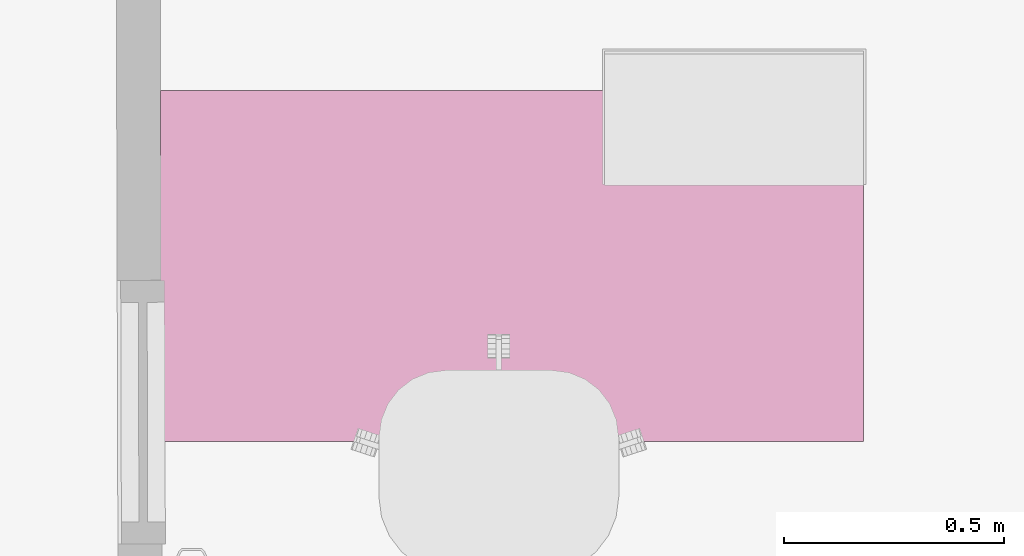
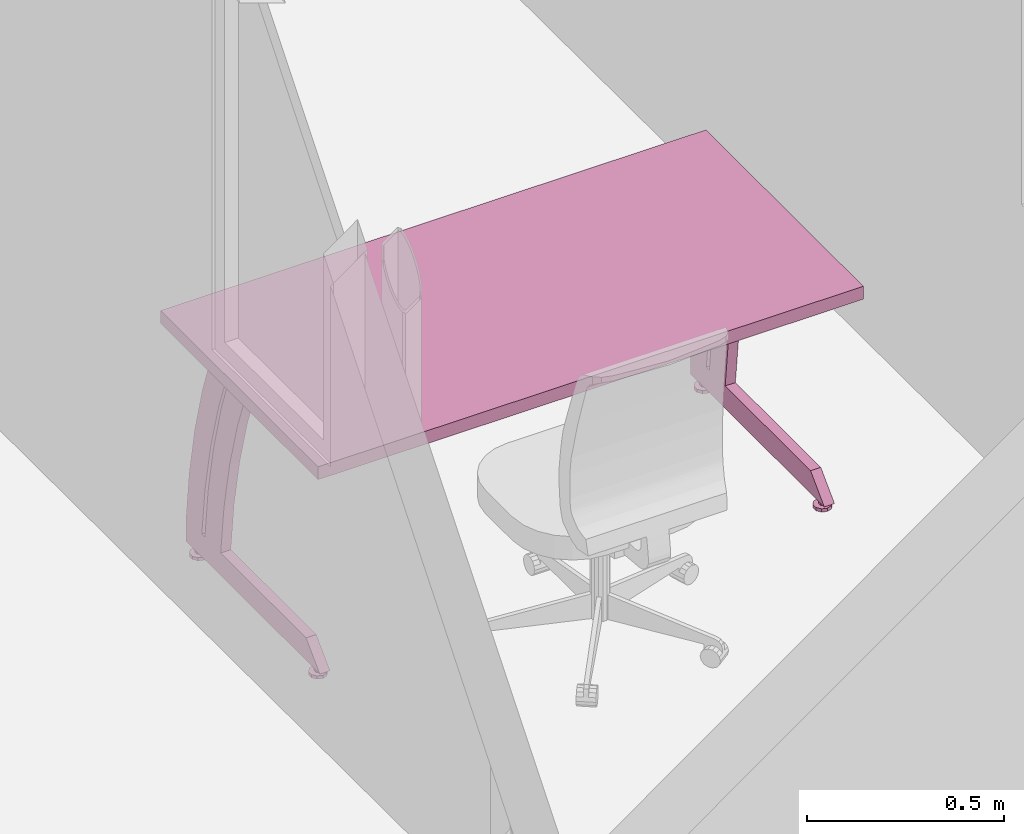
# One storey, part 86 of 128: 1 furnishing.
"""IFC2X3 building model written with IfcOpenShell, lengths in metres."""

from ifc_helpers import new_model, entity, si_unit, converted_unit, derived_unit, direction, frame, origin, place, context, subcontext, project, spatial, faceted_brep, source, transform, mapped, material, type_object, type_shapes, element, save


model = new_model("IFC2X3")

# Units and contexts
model_context = context("Model", 3, precision=1e-05, world=origin(), true_north=direction((6.123031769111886e-17, 1.0)))
body_context = subcontext(model_context, "Body", "Model", "MODEL_VIEW")
ifc_project = project(units=[si_unit("LENGTHUNIT", "METRE"), si_unit("AREAUNIT", "SQUARE_METRE"), converted_unit("PLANEANGLEUNIT", "DEGREE", entity("IfcPlaneAngleMeasure", 0.017453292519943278), si_unit("PLANEANGLEUNIT", "RADIAN"), dimensions=[0, 0, 0, 0, 0, 0, 0]), derived_unit("THERMALTRANSMITTANCEUNIT", [(si_unit("MASSUNIT", "GRAM", prefix="KILO"), 1), (si_unit("THERMODYNAMICTEMPERATUREUNIT", "KELVIN"), -1), (si_unit("TIMEUNIT", "SECOND"), -3)])], contexts=[model_context])

# Site, building, storey
site_placement = place(None, origin())
site = spatial("IfcSite", under=ifc_project, at=site_placement, Name="Default", CompositionType="ELEMENT")
building_placement = place(site_placement, origin())
building = spatial("IfcBuilding", under=site, at=building_placement, CompositionType="ELEMENT")
storey_placement = place(building_placement, origin())
storey = spatial("IfcBuildingStorey", under=building, at=storey_placement, Name="00_RDC CAF", CompositionType="ELEMENT", Elevation=2.4982504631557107e-13)

# Furnishing
ifc_material = material(Name="ARC - Mo - Blanc")
furniture_type = type_object("IfcFurnitureType", Name="Mo_Bureau:Mo_Bureau_1600x800mm", AssemblyPlace="NOTDEFINED", material=ifc_material)
shared_shape = source(origin(), body_context, "Body", "Brep", [
    faceted_brep([(0.05999999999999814, -0.6962325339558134, 0.0), (0.03622358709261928, -0.6885071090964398, 0.0), (0.04076447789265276, -0.6822571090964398, 0.0), (0.04530536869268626, -0.6760071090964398, 0.0), (0.05265268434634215, -0.6736198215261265, 0.0), (0.059999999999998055, -0.6712325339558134, 0.0), (0.06734731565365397, -0.6736198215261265, 0.0), (0.03622358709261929, -0.6962325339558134, 0.0), (0.03622358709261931, -0.7039579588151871, 0.0), (0.04076447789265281, -0.7102079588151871, 0.0), (0.045305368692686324, -0.7164579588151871, 0.0), (0.05265268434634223, -0.7188452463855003, 0.0), (0.05999999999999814, -0.7212325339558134, 0.0), (0.07469463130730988, -0.6760071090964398, 0.0), (0.07923552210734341, -0.6822571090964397, 0.0), (0.08377641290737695, -0.6885071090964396, 0.0), (0.08377641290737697, -0.6962325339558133, 0.0), (0.0673473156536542, -0.7188452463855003, 0.0), (0.07469463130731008, -0.716457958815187, 0.0), (0.07923552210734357, -0.7102079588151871, 0.0), (0.08377641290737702, -0.703957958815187, 0.0), (0.05999999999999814, -0.6962325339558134, 0.024999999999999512), (0.0599999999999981, -0.6862325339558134, 0.024999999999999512), (0.05133974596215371, -0.6912325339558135, 0.024999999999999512), (0.05133974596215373, -0.7012325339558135, 0.024999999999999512), (0.05999999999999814, -0.7062325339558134, 0.024999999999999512), (0.06866025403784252, -0.6912325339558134, 0.024999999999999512), (0.06866025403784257, -0.7012325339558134, 0.024999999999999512), (0.05133974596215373, -0.7012325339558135, 0.010000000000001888), (0.05999999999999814, -0.7062325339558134, 0.010000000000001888), (0.05133974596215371, -0.6912325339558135, 0.010000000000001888), (0.05999999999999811, -0.6862325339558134, 0.010000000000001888), (0.06866025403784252, -0.6912325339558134, 0.010000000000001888), (0.06866025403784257, -0.7012325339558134, 0.010000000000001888), (0.05999999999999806, -0.6712325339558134, 0.010000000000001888), (0.0555460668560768, -0.6726797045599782, 0.010000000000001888), (0.051092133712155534, -0.6741268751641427, 0.010000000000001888), (0.04530536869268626, -0.6760071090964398, 0.010000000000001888), (0.06734731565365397, -0.6736198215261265, 0.010000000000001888), (0.07469463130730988, -0.6760071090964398, 0.010000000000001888), (0.07923552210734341, -0.6822571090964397, 0.010000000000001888), (0.08377641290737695, -0.6885071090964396, 0.010000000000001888), (0.08377641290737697, -0.6962325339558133, 0.010000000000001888), (0.08377641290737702, -0.703957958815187, 0.010000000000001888), (0.07923552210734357, -0.7102079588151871, 0.010000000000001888), (0.07469463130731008, -0.716457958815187, 0.010000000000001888), (0.06890786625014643, -0.7183381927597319, 0.010000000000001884), (0.06445393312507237, -0.7197853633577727, 0.010000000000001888), (0.05999999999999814, -0.7212325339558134, 0.010000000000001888), (0.05265268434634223, -0.7188452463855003, 0.010000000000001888), (0.045305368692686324, -0.7164579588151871, 0.010000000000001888), (0.03622358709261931, -0.7039579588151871, 0.010000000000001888), (0.04076447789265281, -0.7102079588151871, 0.010000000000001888), (0.04076447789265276, -0.6822571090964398, 0.010000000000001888), (0.03622358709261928, -0.6885071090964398, 0.010000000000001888), (0.03622358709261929, -0.6962325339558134, 0.010000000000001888)], [[[0, 1, 2]], [[0, 2, 3]], [[0, 3, 4]], [[0, 4, 5]], [[0, 5, 6]], [[0, 7, 1]], [[0, 8, 7]], [[0, 9, 8]], [[0, 10, 9]], [[0, 11, 10]], [[0, 12, 11]], [[0, 6, 13]], [[0, 13, 14]], [[0, 14, 15]], [[0, 15, 16]], [[0, 17, 12]], [[0, 18, 17]], [[0, 19, 18]], [[0, 20, 19]], [[0, 16, 20]], [[21, 22, 23]], [[23, 24, 21]], [[24, 25, 21]], [[21, 26, 22]], [[25, 27, 21]], [[26, 21, 27]], [[25, 24, 28, 29]], [[24, 23, 30, 28]], [[23, 22, 31, 30]], [[22, 26, 32, 31]], [[26, 27, 33, 32]], [[27, 25, 29, 33]], [[31, 34, 35]], [[31, 35, 36]], [[31, 36, 37]], [[31, 37, 30]], [[31, 38, 34]], [[31, 39, 38]], [[32, 39, 31]], [[32, 40, 39]], [[32, 41, 40]], [[32, 42, 41]], [[32, 43, 42]], [[32, 33, 43]], [[33, 44, 43]], [[33, 45, 44]], [[33, 29, 45]], [[29, 46, 45]], [[29, 47, 46]], [[29, 48, 47]], [[29, 49, 48]], [[29, 50, 49]], [[29, 28, 50]], [[30, 51, 28]], [[28, 51, 52]], [[28, 52, 50]], [[30, 37, 53]], [[30, 53, 54]], [[30, 54, 55]], [[30, 55, 51]], [[11, 12, 48, 49, 50, 10]], [[8, 9, 10, 50, 52, 51]], [[7, 8, 51, 55, 54, 1]], [[3, 37, 36, 35, 34, 5, 4]], [[54, 53, 37, 3, 2, 1]], [[6, 5, 34, 38, 39, 13]], [[15, 14, 13, 39, 40, 41]], [[16, 15, 41, 42, 43, 20]], [[18, 45, 46, 47, 48, 12, 17]], [[43, 44, 45, 18, 19, 20]]]),
    faceted_brep([(0.05999999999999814, -0.09132706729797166, 0.0), (0.03622358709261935, -0.08360164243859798, 0.0), (0.04076447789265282, -0.07735164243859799, 0.0), (0.0453053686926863, -0.07110164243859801, 0.0), (0.05265268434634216, -0.06871435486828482, 0.0), (0.059999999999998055, -0.06632706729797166, 0.0), (0.06734731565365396, -0.06871435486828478, 0.0), (0.03622358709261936, -0.09132706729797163, 0.0), (0.03622358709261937, -0.09905249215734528, 0.0), (0.04076447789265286, -0.10530249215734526, 0.0), (0.04530536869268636, -0.11155249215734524, 0.0), (0.05265268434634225, -0.11393977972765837, 0.0), (0.05999999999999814, -0.11632706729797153, 0.0), (0.07469463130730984, -0.0711016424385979, 0.0), (0.07923552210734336, -0.07735164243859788, 0.0), (0.08377641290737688, -0.08360164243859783, 0.0), (0.0837764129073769, -0.09132706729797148, 0.0), (0.06734731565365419, -0.11393977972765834, 0.0), (0.07469463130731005, -0.11155249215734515, 0.0), (0.07923552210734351, -0.10530249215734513, 0.0), (0.08377641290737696, -0.09905249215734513, 0.0), (0.05999999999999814, -0.09132706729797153, 0.024999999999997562), (0.0599999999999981, -0.08132706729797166, 0.024999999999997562), (0.05133974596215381, -0.08632706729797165, 0.024999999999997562), (0.05133974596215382, -0.09632706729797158, 0.024999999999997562), (0.05999999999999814, -0.10132706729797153, 0.024999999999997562), (0.06866025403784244, -0.0863270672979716, 0.024999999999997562), (0.06866025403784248, -0.09632706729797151, 0.024999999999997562), (0.05133974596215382, -0.09632706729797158, 0.009999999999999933), (0.05999999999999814, -0.10132706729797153, 0.009999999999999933), (0.05133974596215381, -0.08632706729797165, 0.009999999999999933), (0.05999999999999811, -0.08132706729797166, 0.009999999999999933), (0.06866025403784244, -0.0863270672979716, 0.009999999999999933), (0.06866025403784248, -0.09632706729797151, 0.009999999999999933), (0.05999999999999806, -0.06632706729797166, 0.009999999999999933), (0.055546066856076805, -0.06777423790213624, 0.00999999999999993), (0.051092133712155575, -0.06922140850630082, 0.00999999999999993), (0.0453053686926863, -0.07110164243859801, 0.009999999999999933), (0.06734731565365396, -0.06871435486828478, 0.00999999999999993), (0.07469463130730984, -0.0711016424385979, 0.009999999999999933), (0.07923552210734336, -0.07735164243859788, 0.00999999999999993), (0.08377641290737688, -0.08360164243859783, 0.009999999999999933), (0.0837764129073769, -0.09132706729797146, 0.00999999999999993), (0.08377641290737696, -0.09905249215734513, 0.009999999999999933), (0.07923552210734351, -0.10530249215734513, 0.00999999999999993), (0.07469463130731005, -0.11155249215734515, 0.009999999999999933), (0.0689078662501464, -0.11343272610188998, 0.00999999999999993), (0.06445393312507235, -0.11487989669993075, 0.00999999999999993), (0.05999999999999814, -0.11632706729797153, 0.009999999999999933), (0.05265268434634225, -0.11393977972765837, 0.00999999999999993), (0.04530536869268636, -0.11155249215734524, 0.009999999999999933), (0.03622358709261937, -0.09905249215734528, 0.009999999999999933), (0.04076447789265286, -0.10530249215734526, 0.00999999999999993), (0.04076447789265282, -0.07735164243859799, 0.00999999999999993), (0.03622358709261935, -0.08360164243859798, 0.009999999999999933), (0.03622358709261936, -0.09132706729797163, 0.00999999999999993)], [[[0, 1, 2]], [[0, 2, 3]], [[0, 3, 4]], [[0, 4, 5]], [[0, 5, 6]], [[0, 7, 1]], [[0, 8, 7]], [[0, 9, 8]], [[0, 10, 9]], [[0, 11, 10]], [[0, 12, 11]], [[0, 6, 13]], [[0, 13, 14]], [[0, 14, 15]], [[0, 15, 16]], [[0, 17, 12]], [[0, 18, 17]], [[0, 19, 18]], [[0, 20, 19]], [[0, 16, 20]], [[21, 22, 23]], [[23, 24, 21]], [[24, 25, 21]], [[21, 26, 22]], [[25, 27, 21]], [[26, 21, 27]], [[25, 24, 28, 29]], [[24, 23, 30, 28]], [[23, 22, 31, 30]], [[22, 26, 32, 31]], [[26, 27, 33, 32]], [[27, 25, 29, 33]], [[31, 34, 35]], [[31, 35, 36]], [[31, 36, 37]], [[31, 37, 30]], [[31, 38, 34]], [[31, 39, 38]], [[32, 39, 31]], [[32, 40, 39]], [[32, 41, 40]], [[32, 42, 41]], [[32, 43, 42]], [[32, 33, 43]], [[33, 44, 43]], [[33, 45, 44]], [[33, 29, 45]], [[29, 46, 45]], [[29, 47, 46]], [[29, 48, 47]], [[29, 49, 48]], [[29, 50, 49]], [[29, 28, 50]], [[30, 51, 28]], [[28, 51, 52]], [[28, 52, 50]], [[30, 37, 53]], [[30, 53, 54]], [[30, 54, 55]], [[30, 55, 51]], [[11, 12, 48, 49, 50, 10]], [[8, 9, 10, 50, 52, 51]], [[7, 8, 51, 55, 54, 1]], [[3, 37, 36, 35, 34, 5, 4]], [[54, 53, 37, 3, 2, 1]], [[6, 5, 34, 38, 39, 13]], [[15, 14, 13, 39, 40, 41]], [[16, 15, 41, 42, 43, 20]], [[18, 45, 46, 47, 48, 12, 17]], [[43, 44, 45, 18, 19, 20]]]),
    faceted_brep([(0.04499999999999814, -0.22742160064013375, 0.09500000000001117), (0.04499999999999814, -0.24409269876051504, 0.24614112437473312), (0.04499999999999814, -0.2727144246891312, 0.3954808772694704), (0.04499999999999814, -0.313105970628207, 0.542075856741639), (0.04499999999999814, -0.36501217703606, 0.684999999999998), (0.04499999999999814, -0.27887211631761, 0.6849999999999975), (0.04499999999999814, -0.22919246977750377, 0.5416912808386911), (0.04499999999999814, -0.19055436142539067, 0.39501969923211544), (0.04499999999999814, -0.1631815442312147, 0.24583462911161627), (0.04499999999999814, -0.14723253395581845, 0.09500000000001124), (0.07499999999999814, -0.3650121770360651, 0.6850000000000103), (0.07499999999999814, -0.313105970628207, 0.542075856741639), (0.07499999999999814, -0.2727144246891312, 0.3954808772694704), (0.07499999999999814, -0.24409269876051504, 0.24614112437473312), (0.07499999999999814, -0.22742160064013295, 0.09499999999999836), (0.07499999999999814, -0.14723253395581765, 0.09499999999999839), (0.07499999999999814, -0.1631815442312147, 0.24583462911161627), (0.07499999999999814, -0.19055436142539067, 0.39501969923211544), (0.07499999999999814, -0.22919246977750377, 0.5416912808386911), (0.07499999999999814, -0.2788721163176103, 0.684999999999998)], [[[0, 1, 2, 3, 4, 5, 6, 7, 8, 9]], [[10, 11, 12, 13, 14, 15, 16, 17, 18, 19]], [[10, 19, 5, 4]], [[3, 11, 10, 4]], [[2, 12, 11, 3]], [[0, 14, 13, 1]], [[12, 2, 1, 13]], [[15, 14, 0, 9]], [[8, 7, 17, 16]], [[15, 9, 8, 16]], [[6, 5, 19, 18]], [[6, 18, 17, 7]]]),
    faceted_brep([(0.04499999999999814, -0.1314216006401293, 0.09500000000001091), (0.04499999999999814, -0.1480926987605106, 0.24614112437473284), (0.04499999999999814, -0.17671442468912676, 0.3954808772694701), (0.04499999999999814, -0.21710597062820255, 0.5420758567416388), (0.04499999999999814, -0.2690121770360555, 0.6849999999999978), (0.04499999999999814, -0.18287211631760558, 0.6849999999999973), (0.04499999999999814, -0.13319246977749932, 0.5416912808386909), (0.04499999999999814, -0.09455436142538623, 0.39501969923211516), (0.04499999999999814, -0.06718154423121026, 0.24583462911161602), (0.04499999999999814, -0.05123253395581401, 0.09500000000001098), (0.07499999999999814, -0.2690121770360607, 0.6850000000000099), (0.07499999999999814, -0.21710597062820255, 0.5420758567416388), (0.07499999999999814, -0.17671442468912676, 0.3954808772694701), (0.07499999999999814, -0.1480926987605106, 0.24614112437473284), (0.07499999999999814, -0.1314216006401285, 0.09499999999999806), (0.07499999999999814, -0.051232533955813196, 0.09499999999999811), (0.07499999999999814, -0.06718154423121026, 0.24583462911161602), (0.07499999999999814, -0.09455436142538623, 0.39501969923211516), (0.07499999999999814, -0.13319246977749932, 0.5416912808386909), (0.07499999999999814, -0.18287211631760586, 0.6849999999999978)], [[[0, 1, 2, 3, 4, 5, 6, 7, 8, 9]], [[10, 11, 12, 13, 14, 15, 16, 17, 18, 19]], [[10, 19, 5, 4]], [[3, 11, 10, 4]], [[2, 12, 11, 3]], [[0, 14, 13, 1]], [[12, 2, 1, 13]], [[15, 14, 0, 9]], [[8, 7, 17, 16]], [[15, 9, 8, 16]], [[6, 5, 19, 18]], [[6, 18, 17, 7]]]),
    faceted_brep([(0.04499999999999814, -0.05123253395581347, 0.024999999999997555), (0.04499999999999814, -0.7312325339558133, 0.024999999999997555), (0.04499999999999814, -0.6612325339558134, 0.09499999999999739), (0.04499999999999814, -0.05123253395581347, 0.09499999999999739), (0.07499999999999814, -0.05123253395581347, 0.024999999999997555), (0.07499999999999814, -0.05123253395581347, 0.09499999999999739), (0.07499999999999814, -0.6612325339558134, 0.09499999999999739), (0.07499999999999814, -0.7312325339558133, 0.024999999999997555)], [[[0, 1, 2, 3]], [[4, 5, 6, 7]], [[5, 4, 0, 3]], [[6, 5, 3, 2]], [[4, 7, 1, 0]], [[7, 6, 2, 1]]]),
    faceted_brep([(1.5399999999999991, -0.6962325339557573, 0.0), (1.5162235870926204, -0.6885071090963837, 0.0), (1.5207644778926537, -0.6822571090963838, 0.0), (1.5253053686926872, -0.6760071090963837, 0.0), (1.532652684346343, -0.6736198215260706, 0.0), (1.5399999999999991, -0.6712325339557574, 0.0), (1.547347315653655, -0.6736198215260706, 0.0), (1.5162235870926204, -0.6962325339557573, 0.0), (1.5162235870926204, -0.7039579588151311, 0.0), (1.5207644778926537, -0.710207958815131, 0.0), (1.5253053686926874, -0.7164579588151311, 0.0), (1.5326526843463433, -0.7188452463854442, 0.0), (1.5399999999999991, -0.7212325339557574, 0.0), (1.554694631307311, -0.6760071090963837, 0.0), (1.5592355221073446, -0.6822571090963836, 0.0), (1.563776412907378, -0.6885071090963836, 0.0), (1.563776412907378, -0.6962325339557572, 0.0), (1.5473473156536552, -0.7188452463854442, 0.0), (1.5546946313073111, -0.716457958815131, 0.0), (1.5592355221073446, -0.710207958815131, 0.0), (1.563776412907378, -0.7039579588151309, 0.0), (1.5399999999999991, -0.6962325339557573, 0.024999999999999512), (1.5399999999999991, -0.6862325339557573, 0.024999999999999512), (1.5313397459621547, -0.6912325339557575, 0.024999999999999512), (1.5313397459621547, -0.7012325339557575, 0.024999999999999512), (1.5399999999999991, -0.7062325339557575, 0.024999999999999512), (1.5486602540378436, -0.6912325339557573, 0.024999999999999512), (1.5486602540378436, -0.7012325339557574, 0.024999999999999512), (1.5313397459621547, -0.7012325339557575, 0.010000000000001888), (1.5399999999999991, -0.7062325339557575, 0.010000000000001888), (1.5313397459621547, -0.6912325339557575, 0.010000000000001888), (1.5399999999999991, -0.6862325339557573, 0.010000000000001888), (1.5486602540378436, -0.6912325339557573, 0.010000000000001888), (1.5486602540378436, -0.7012325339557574, 0.010000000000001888), (1.5399999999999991, -0.6712325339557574, 0.010000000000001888), (1.5355460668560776, -0.672679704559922, 0.010000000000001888), (1.5310921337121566, -0.6741268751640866, 0.010000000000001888), (1.5253053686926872, -0.6760071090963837, 0.010000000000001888), (1.547347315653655, -0.6736198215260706, 0.010000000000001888), (1.554694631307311, -0.6760071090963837, 0.010000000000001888), (1.5592355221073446, -0.6822571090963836, 0.010000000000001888), (1.563776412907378, -0.6885071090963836, 0.010000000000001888), (1.563776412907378, -0.6962325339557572, 0.010000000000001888), (1.563776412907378, -0.7039579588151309, 0.010000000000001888), (1.5592355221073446, -0.710207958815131, 0.010000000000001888), (1.5546946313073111, -0.716457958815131, 0.010000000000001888), (1.5489078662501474, -0.7183381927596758, 0.010000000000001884), (1.5444539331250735, -0.7197853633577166, 0.010000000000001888), (1.5399999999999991, -0.7212325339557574, 0.010000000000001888), (1.5326526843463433, -0.7188452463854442, 0.010000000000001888), (1.5253053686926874, -0.7164579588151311, 0.010000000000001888), (1.5162235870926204, -0.7039579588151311, 0.010000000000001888), (1.5207644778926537, -0.710207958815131, 0.010000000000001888), (1.5207644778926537, -0.6822571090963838, 0.010000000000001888), (1.5162235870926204, -0.6885071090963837, 0.010000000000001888), (1.5162235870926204, -0.6962325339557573, 0.010000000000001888)], [[[0, 1, 2]], [[0, 2, 3]], [[0, 3, 4]], [[0, 4, 5]], [[0, 5, 6]], [[0, 7, 1]], [[0, 8, 7]], [[0, 9, 8]], [[0, 10, 9]], [[0, 11, 10]], [[0, 12, 11]], [[0, 6, 13]], [[0, 13, 14]], [[0, 14, 15]], [[0, 15, 16]], [[0, 17, 12]], [[0, 18, 17]], [[0, 19, 18]], [[0, 20, 19]], [[0, 16, 20]], [[21, 22, 23]], [[23, 24, 21]], [[24, 25, 21]], [[21, 26, 22]], [[25, 27, 21]], [[26, 21, 27]], [[25, 24, 28, 29]], [[24, 23, 30, 28]], [[23, 22, 31, 30]], [[22, 26, 32, 31]], [[26, 27, 33, 32]], [[27, 25, 29, 33]], [[31, 34, 35]], [[31, 35, 36]], [[31, 36, 37]], [[31, 37, 30]], [[31, 38, 34]], [[31, 39, 38]], [[32, 39, 31]], [[32, 40, 39]], [[32, 41, 40]], [[32, 42, 41]], [[32, 43, 42]], [[32, 33, 43]], [[33, 44, 43]], [[33, 45, 44]], [[33, 29, 45]], [[29, 46, 45]], [[29, 47, 46]], [[29, 48, 47]], [[29, 49, 48]], [[29, 50, 49]], [[29, 28, 50]], [[30, 51, 28]], [[28, 51, 52]], [[28, 52, 50]], [[30, 37, 53]], [[30, 53, 54]], [[30, 54, 55]], [[30, 55, 51]], [[11, 12, 48, 49, 50, 10]], [[8, 9, 10, 50, 52, 51]], [[7, 8, 51, 55, 54, 1]], [[3, 37, 36, 35, 34, 5, 4]], [[54, 53, 37, 3, 2, 1]], [[6, 5, 34, 38, 39, 13]], [[15, 14, 13, 39, 40, 41]], [[16, 15, 41, 42, 43, 20]], [[18, 45, 46, 47, 48, 12, 17]], [[43, 44, 45, 18, 19, 20]]]),
    faceted_brep([(1.5399999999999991, -0.09132706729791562, 0.0), (1.5162235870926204, -0.08360164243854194, 0.0), (1.5207644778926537, -0.07735164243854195, 0.0), (1.5253053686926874, -0.07110164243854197, 0.0), (1.5326526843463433, -0.06871435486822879, 0.0), (1.5399999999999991, -0.06632706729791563, 0.0), (1.547347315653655, -0.06871435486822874, 0.0), (1.5162235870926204, -0.09132706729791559, 0.0), (1.5162235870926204, -0.09905249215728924, 0.0), (1.5207644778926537, -0.10530249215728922, 0.0), (1.5253053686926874, -0.1115524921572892, 0.0), (1.5326526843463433, -0.11393977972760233, 0.0), (1.5399999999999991, -0.11632706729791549, 0.0), (1.554694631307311, -0.07110164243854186, 0.0), (1.5592355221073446, -0.07735164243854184, 0.0), (1.563776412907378, -0.08360164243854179, 0.0), (1.563776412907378, -0.09132706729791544, 0.0), (1.5473473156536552, -0.1139397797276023, 0.0), (1.5546946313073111, -0.11155249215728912, 0.0), (1.5592355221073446, -0.1053024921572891, 0.0), (1.563776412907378, -0.09905249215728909, 0.0), (1.5399999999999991, -0.0913270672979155, 0.024999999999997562), (1.5399999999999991, -0.08132706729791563, 0.024999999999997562), (1.531339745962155, -0.08632706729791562, 0.024999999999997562), (1.531339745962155, -0.09632706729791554, 0.024999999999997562), (1.5399999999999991, -0.10132706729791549, 0.024999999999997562), (1.5486602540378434, -0.08632706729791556, 0.024999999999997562), (1.5486602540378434, -0.09632706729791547, 0.024999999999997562), (1.531339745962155, -0.09632706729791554, 0.009999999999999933), (1.5399999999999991, -0.10132706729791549, 0.009999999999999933), (1.531339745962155, -0.08632706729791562, 0.009999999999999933), (1.5399999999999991, -0.08132706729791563, 0.009999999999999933), (1.5486602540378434, -0.08632706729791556, 0.009999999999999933), (1.5486602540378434, -0.09632706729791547, 0.009999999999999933), (1.5399999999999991, -0.06632706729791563, 0.009999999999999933), (1.5355460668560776, -0.0677742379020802, 0.00999999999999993), (1.5310921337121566, -0.06922140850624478, 0.00999999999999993), (1.5253053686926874, -0.07110164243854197, 0.009999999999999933), (1.547347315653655, -0.06871435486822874, 0.00999999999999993), (1.554694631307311, -0.07110164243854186, 0.009999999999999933), (1.5592355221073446, -0.07735164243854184, 0.00999999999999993), (1.563776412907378, -0.08360164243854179, 0.009999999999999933), (1.563776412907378, -0.09132706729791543, 0.00999999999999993), (1.563776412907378, -0.09905249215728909, 0.009999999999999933), (1.5592355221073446, -0.1053024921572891, 0.00999999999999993), (1.5546946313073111, -0.11155249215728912, 0.009999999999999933), (1.5489078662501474, -0.11343272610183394, 0.00999999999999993), (1.5444539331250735, -0.11487989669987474, 0.00999999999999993), (1.5399999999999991, -0.11632706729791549, 0.009999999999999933), (1.5326526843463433, -0.11393977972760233, 0.00999999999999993), (1.5253053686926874, -0.1115524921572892, 0.009999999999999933), (1.5162235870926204, -0.09905249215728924, 0.009999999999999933), (1.5207644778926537, -0.10530249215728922, 0.00999999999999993), (1.5207644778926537, -0.07735164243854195, 0.00999999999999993), (1.5162235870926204, -0.08360164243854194, 0.009999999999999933), (1.5162235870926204, -0.09132706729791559, 0.00999999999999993)], [[[0, 1, 2]], [[0, 2, 3]], [[0, 3, 4]], [[0, 4, 5]], [[0, 5, 6]], [[0, 7, 1]], [[0, 8, 7]], [[0, 9, 8]], [[0, 10, 9]], [[0, 11, 10]], [[0, 12, 11]], [[0, 6, 13]], [[0, 13, 14]], [[0, 14, 15]], [[0, 15, 16]], [[0, 17, 12]], [[0, 18, 17]], [[0, 19, 18]], [[0, 20, 19]], [[0, 16, 20]], [[21, 22, 23]], [[23, 24, 21]], [[24, 25, 21]], [[21, 26, 22]], [[25, 27, 21]], [[26, 21, 27]], [[25, 24, 28, 29]], [[24, 23, 30, 28]], [[23, 22, 31, 30]], [[22, 26, 32, 31]], [[26, 27, 33, 32]], [[27, 25, 29, 33]], [[31, 34, 35]], [[31, 35, 36]], [[31, 36, 37]], [[31, 37, 30]], [[31, 38, 34]], [[31, 39, 38]], [[32, 39, 31]], [[32, 40, 39]], [[32, 41, 40]], [[32, 42, 41]], [[32, 43, 42]], [[32, 33, 43]], [[33, 44, 43]], [[33, 45, 44]], [[33, 29, 45]], [[29, 46, 45]], [[29, 47, 46]], [[29, 48, 47]], [[29, 49, 48]], [[29, 50, 49]], [[29, 28, 50]], [[30, 51, 28]], [[28, 51, 52]], [[28, 52, 50]], [[30, 37, 53]], [[30, 53, 54]], [[30, 54, 55]], [[30, 55, 51]], [[11, 12, 48, 49, 50, 10]], [[8, 9, 10, 50, 52, 51]], [[7, 8, 51, 55, 54, 1]], [[3, 37, 36, 35, 34, 5, 4]], [[54, 53, 37, 3, 2, 1]], [[6, 5, 34, 38, 39, 13]], [[15, 14, 13, 39, 40, 41]], [[16, 15, 41, 42, 43, 20]], [[18, 45, 46, 47, 48, 12, 17]], [[43, 44, 45, 18, 19, 20]]]),
    faceted_brep([(1.524999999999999, -0.22742160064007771, 0.09500000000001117), (1.524999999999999, -0.244092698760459, 0.24614112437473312), (1.524999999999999, -0.27271442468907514, 0.3954808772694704), (1.524999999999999, -0.31310597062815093, 0.542075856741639), (1.524999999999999, -0.3650121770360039, 0.684999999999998), (1.524999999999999, -0.278872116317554, 0.6849999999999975), (1.524999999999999, -0.22919246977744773, 0.5416912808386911), (1.524999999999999, -0.19055436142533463, 0.39501969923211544), (1.524999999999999, -0.16318154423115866, 0.24583462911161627), (1.524999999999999, -0.1472325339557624, 0.09500000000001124), (1.5549999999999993, -0.3650121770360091, 0.6850000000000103), (1.5549999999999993, -0.31310597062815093, 0.542075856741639), (1.5549999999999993, -0.27271442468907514, 0.3954808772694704), (1.5549999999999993, -0.244092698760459, 0.24614112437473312), (1.5549999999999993, -0.2274216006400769, 0.09499999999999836), (1.5549999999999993, -0.1472325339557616, 0.09499999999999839), (1.5549999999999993, -0.16318154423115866, 0.24583462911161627), (1.5549999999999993, -0.19055436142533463, 0.39501969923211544), (1.5549999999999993, -0.22919246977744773, 0.5416912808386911), (1.5549999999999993, -0.27887211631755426, 0.684999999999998)], [[[0, 1, 2, 3, 4, 5, 6, 7, 8, 9]], [[10, 11, 12, 13, 14, 15, 16, 17, 18, 19]], [[10, 19, 5, 4]], [[3, 11, 10, 4]], [[2, 12, 11, 3]], [[0, 14, 13, 1]], [[12, 2, 1, 13]], [[15, 14, 0, 9]], [[8, 7, 17, 16]], [[15, 9, 8, 16]], [[6, 5, 19, 18]], [[6, 18, 17, 7]]]),
    faceted_brep([(1.524999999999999, -0.13142160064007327, 0.09500000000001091), (1.524999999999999, -0.14809269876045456, 0.24614112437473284), (1.524999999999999, -0.17671442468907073, 0.3954808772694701), (1.524999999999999, -0.21710597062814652, 0.5420758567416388), (1.524999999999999, -0.2690121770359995, 0.6849999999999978), (1.524999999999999, -0.18287211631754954, 0.6849999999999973), (1.524999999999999, -0.13319246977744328, 0.5416912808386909), (1.524999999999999, -0.09455436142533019, 0.39501969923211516), (1.524999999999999, -0.06718154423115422, 0.24583462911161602), (1.524999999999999, -0.05123253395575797, 0.09500000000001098), (1.5549999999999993, -0.2690121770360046, 0.6850000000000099), (1.5549999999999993, -0.21710597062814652, 0.5420758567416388), (1.5549999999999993, -0.17671442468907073, 0.3954808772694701), (1.5549999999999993, -0.14809269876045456, 0.24614112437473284), (1.5549999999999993, -0.13142160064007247, 0.09499999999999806), (1.5549999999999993, -0.05123253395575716, 0.09499999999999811), (1.5549999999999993, -0.06718154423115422, 0.24583462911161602), (1.5549999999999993, -0.09455436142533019, 0.39501969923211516), (1.5549999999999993, -0.13319246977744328, 0.5416912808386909), (1.5549999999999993, -0.18287211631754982, 0.6849999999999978)], [[[0, 1, 2, 3, 4, 5, 6, 7, 8, 9]], [[10, 11, 12, 13, 14, 15, 16, 17, 18, 19]], [[10, 19, 5, 4]], [[3, 11, 10, 4]], [[2, 12, 11, 3]], [[0, 14, 13, 1]], [[12, 2, 1, 13]], [[15, 14, 0, 9]], [[8, 7, 17, 16]], [[15, 9, 8, 16]], [[6, 5, 19, 18]], [[6, 18, 17, 7]]]),
    faceted_brep([(1.524999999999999, -0.05123253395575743, 0.024999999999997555), (1.524999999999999, -0.7312325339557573, 0.024999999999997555), (1.524999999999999, -0.6612325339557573, 0.09499999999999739), (1.524999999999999, -0.05123253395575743, 0.09499999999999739), (1.5549999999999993, -0.05123253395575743, 0.024999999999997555), (1.5549999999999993, -0.05123253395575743, 0.09499999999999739), (1.5549999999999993, -0.6612325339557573, 0.09499999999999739), (1.5549999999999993, -0.7312325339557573, 0.024999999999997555)], [[[0, 1, 2, 3]], [[4, 5, 6, 7]], [[5, 4, 0, 3]], [[6, 5, 3, 2]], [[4, 7, 1, 0]], [[7, 6, 2, 1]]]),
    faceted_brep([(0.0, -0.7999999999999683, 0.685), (0.0, 0.0, 0.685), (1.5999999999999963, 0.0, 0.684999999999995), (1.5999999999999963, -0.7999999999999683, 0.684999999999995), (0.0, -0.7999999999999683, 0.7250000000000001), (1.5999999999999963, -0.7999999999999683, 0.7249999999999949), (1.5999999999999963, 0.0, 0.7249999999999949), (0.0, 0.0, 0.7250000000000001)], [[[0, 1, 2, 3]], [[4, 5, 6, 7]], [[5, 4, 0, 3]], [[6, 5, 3, 2]], [[7, 6, 2, 1]], [[4, 7, 1, 0]]]),
])
type_shapes(furniture_type, [shared_shape])
furnishing_placement = place(storey_placement, frame((9.11527892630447, 134.00339342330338, 0.0)))
element("IfcFurnishingElement", 1, at=furnishing_placement, inside=storey, type_object=furniture_type, material=ifc_material, Name="Mo_Bureau:Mo_Bureau_1600x800mm", ObjectType="Mo_Bureau:Mo_Bureau_1600x800mm", context=body_context, shape_type="MappedRepresentation", body=[
    mapped(shared_shape, transform((0.0, 0.0, 0.0), scale=1.0)),
])

save(model, "model.ifc")
